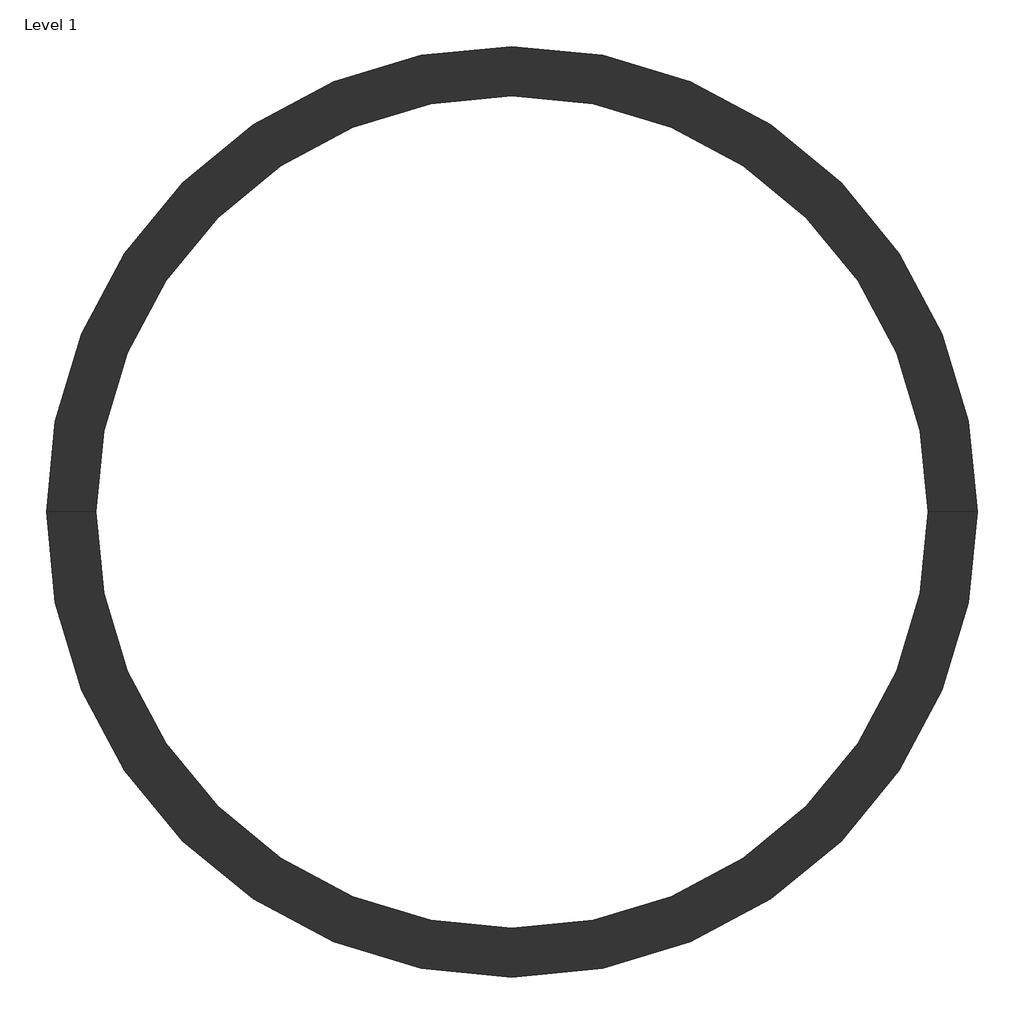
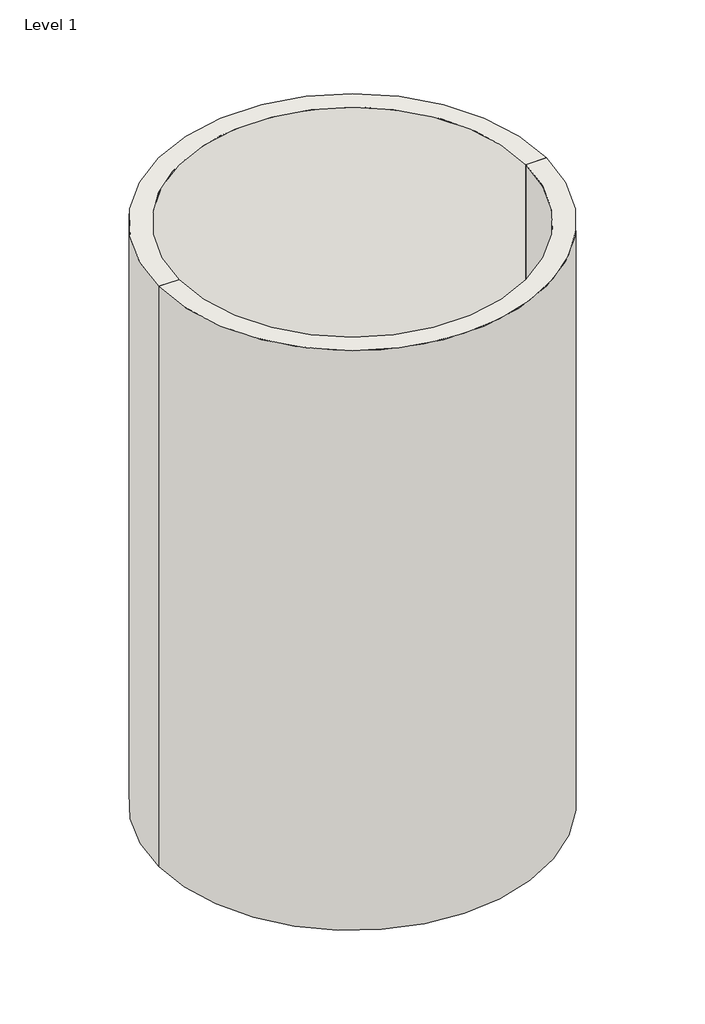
# One storey: 2 walls.
"""IFC4 building model written with IfcOpenShell, lengths in millimetres."""

from ifc_helpers import new_model, si_unit, point, frame_2d, origin, origin_with_axes, place, context, project, spatial, polyline, circle_curve, trimmed, segment, composite_curve, outline, extrude, element, save

model = new_model("IFC4")

# Units and contexts
model_context = context("Model", 3, world=origin())
ifc_project = project(units=[si_unit("LENGTHUNIT", "METRE", prefix="MILLI")], contexts=[model_context])

# Site, building, storey
site = spatial("IfcSite", under=ifc_project)
building = spatial("IfcBuilding", under=site)
storey = spatial("IfcBuildingStorey", under=building, Name="Level 1", Elevation=0.0)

# Walls
placement = place(None, origin())
element("IfcWall", 1, ObjectType="Generic - 8\"", at=placement, inside=storey, context=model_context, shape_type="SweptSolid", body=[
    extrude(outline(composite_curve([segment(polyline([(-2717.9993872, 1454.6171013), (-2921.1993872, 1454.6171013)]), True, "CONTINUOUS"), segment(trimmed(circle_curve(frame_2d((-990.7993872, 1454.6171013)), 1930.4), [point((-2921.1993872, 1454.6171013))], [point((939.6006128, 1454.6171013))], False, "CARTESIAN"), True, "CONTINUOUS"), segment(polyline([(939.6006128, 1454.6171013), (736.4006128, 1454.6171013)]), True, "CONTINUOUS"), segment(trimmed(circle_curve(frame_2d((-990.7993872, 1454.6171013)), 1727.2), [point((736.4006128, 1454.6171013))], [point((-2717.9993872, 1454.6171013))], True, "CARTESIAN"), True, "CONTINUOUS")], self_intersect=False)), origin_with_axes(), (0.0, 0.0, 1.0), 6096.0),
])
element("IfcWall", 2, ObjectType="Generic - 8\"", at=placement, inside=storey, context=model_context, shape_type="SweptSolid", body=[
    extrude(outline(composite_curve([segment(polyline([(736.4006128, 1454.6171013), (939.6006128, 1454.6171013)]), True, "CONTINUOUS"), segment(trimmed(circle_curve(frame_2d((-990.7993872, 1454.6171013)), 1930.4), [point((939.6006128, 1454.6171013))], [point((-2921.1993872, 1454.6171013))], False, "CARTESIAN"), True, "CONTINUOUS"), segment(polyline([(-2921.1993872, 1454.6171013), (-2717.9993872, 1454.6171013)]), True, "CONTINUOUS"), segment(trimmed(circle_curve(frame_2d((-990.7993872, 1454.6171013)), 1727.2), [point((-2717.9993872, 1454.6171013))], [point((736.4006128, 1454.6171013))], True, "CARTESIAN"), True, "CONTINUOUS")], self_intersect=False)), origin_with_axes(), (0.0, 0.0, 1.0), 6096.0),
])

save(model, "model.ifc")
